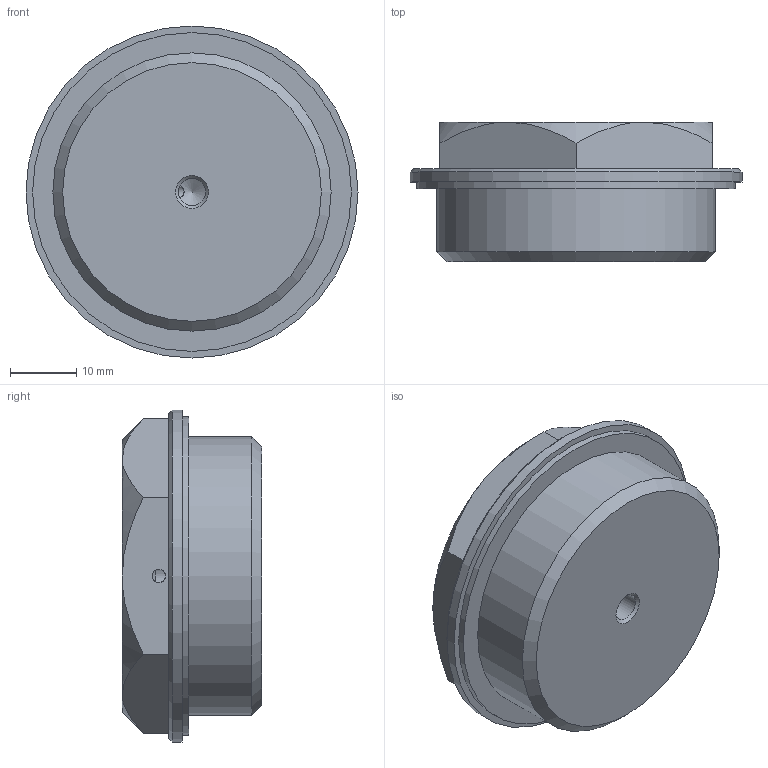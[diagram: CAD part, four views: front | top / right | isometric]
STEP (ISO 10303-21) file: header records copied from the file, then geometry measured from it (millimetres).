
FILE_DESCRIPTION( ( 'STEP AP203' ), '1' );
FILE_NAME( 'C:/Temp/Ganter_Step_05_03_2020/data/3_5/gn742/gn742_2/Threaded plug GN 742-50-G11_4-OSS-2.stp', '2020-03-12T13:39:48', ( 'License CC BY-ND 4.0' ), ( 'CADENAS' ), ' ', 'PARTsolutions', ' ' );
FILE_SCHEMA( ( 'CONFIG_CONTROL_DESIGN' ) );
Length unit declared in the file: millimetre
Products named in the file (1): _Threaded plug GN 742-50-G11/4-OSS-2
Bounding box: 50 x 21 x 50 mm (x, y, z)
Volume: 30532.3 mm3; surface area: 6890.5 mm2
Topology: 1 solids, 1 shells, 26 faces, 56 edges, 34 vertices
Faces by surface type: plane 11, cone 10, cylinder 5
Full cylindrical faces by diameter (mm): 2 x1, 4.134 x1, 41.91 x1, 48 x1, 50 x1
Entity records: 784 total; most frequent: CARTESIAN_POINT 237, DIRECTION 102, ORIENTED_EDGE 88, AXIS2_PLACEMENT_3D 45, EDGE_CURVE 44, EDGE_LOOP 39, VERTEX_POINT 32, FACE_OUTER_BOUND 31
